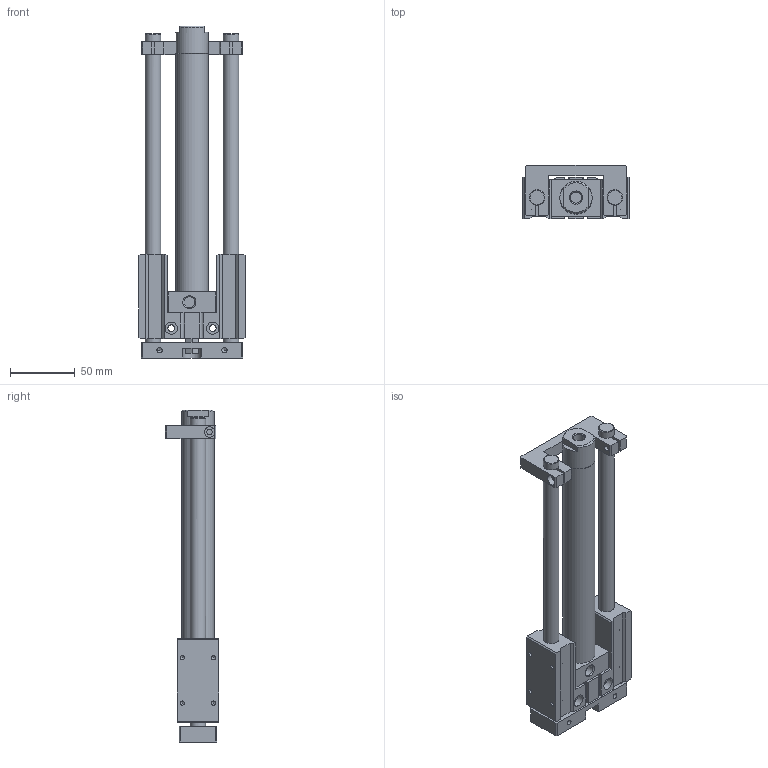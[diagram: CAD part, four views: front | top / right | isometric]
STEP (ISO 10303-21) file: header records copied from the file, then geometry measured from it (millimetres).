
FILE_DESCRIPTION((''),'2;1');
FILE_NAME('I:\3D電子目錄\氣缸\TMB(U)\TMB(U)\TMB(U)20\TMB(U)20x150.stp','2007-10-04T15:02:00',('Administrator'),(''),'Autodesk Inventor 11','Autodesk Inventor 11','');
FILE_SCHEMA(('AUTOMOTIVE_DESIGN { 1 0 10303 214 1 1 1 1 }'));
Length unit declared in the file: millimetre
Products named in the file (1): TMB(U)20
Bounding box: 82 x 41 x 256 mm (x, y, z)
Volume: 295474.5 mm3; surface area: 70459.5 mm2
Topology: 1 solids, 1 shells, 244 faces, 668 edges, 432 vertices
Faces by surface type: plane 139, bspline 50, cone 28, cylinder 25, torus 2
Full cylindrical faces by diameter (mm): 3.242 x4, 4.134 x4, 8 x1, 10 x2, 11 x2, 12 x3, 25 x2
Entity records: 7581 total; most frequent: CARTESIAN_POINT 2093, ORIENTED_EDGE 1088, DIRECTION 1054, EDGE_CURVE 544, VERTEX_POINT 384, EDGE_LOOP 368, AXIS2_PLACEMENT_3D 355, VECTOR 344
